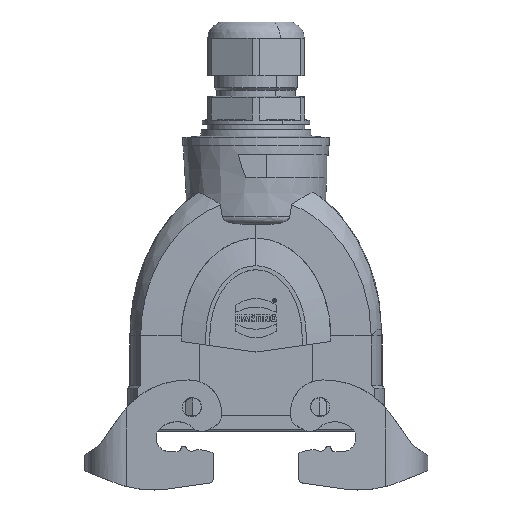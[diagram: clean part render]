
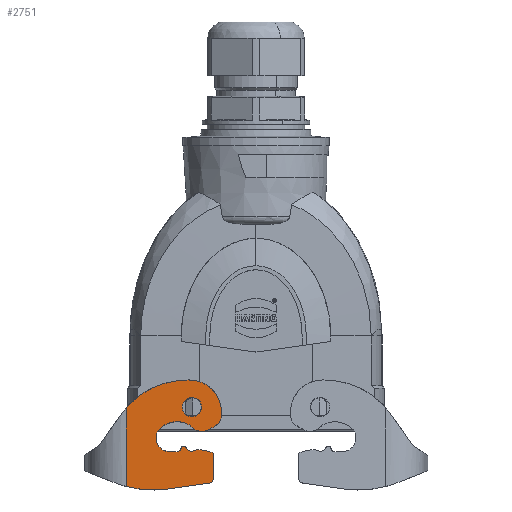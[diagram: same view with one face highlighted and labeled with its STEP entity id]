
A CAD part, front view. The second image highlights one B-rep face of the part: STEP entity #2751.
In plain terms, the highlighted planar face has unit normal (-0.035, -0.999, 0).
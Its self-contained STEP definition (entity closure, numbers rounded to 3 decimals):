
#1776=FACE_BOUND('',#4413,.T.);
#1777=FACE_BOUND('',#4414,.T.);
#2241=PLANE('',#16388);
#2751=ADVANCED_FACE('',(#1776,#1777),#2241,.T.);
#4413=EDGE_LOOP('',(#5852));
#4414=EDGE_LOOP('',(#5853,#5854,#5855,#5856,#5857,#5858,#5859,#5860,#5861,
#5862,#5863,#5864,#5865,#5866,#5867,#5868,#5869,#5870,#5871,#5872));
#5207=ELLIPSE('',#16229,12.007,12.);
#5209=ELLIPSE('',#16232,20.012,20.);
#5211=ELLIPSE('',#16235,3.002,3.);
#5239=ELLIPSE('',#16274,30.018,30.);
#5269=ELLIPSE('',#16323,40.024,40.);
#5286=ELLIPSE('',#16378,3.602,3.6);
#5287=ELLIPSE('',#16379,2.001,2.);
#5288=ELLIPSE('',#16380,15.009,15.);
#5289=ELLIPSE('',#16381,2.502,2.5);
#5290=ELLIPSE('',#16382,1.001,1.);
#5291=ELLIPSE('',#16383,1.501,1.5);
#5292=ELLIPSE('',#16384,5.003,5.);
#5293=ELLIPSE('',#16385,9.005,9.);
#5294=ELLIPSE('',#16386,5.003,5.);
#5295=ELLIPSE('',#16387,5.003,5.);
#5852=ORIENTED_EDGE('',*,*,#11212,.F.);
#5853=ORIENTED_EDGE('',*,*,#11205,.T.);
#5854=ORIENTED_EDGE('',*,*,#11135,.T.);
#5855=ORIENTED_EDGE('',*,*,#11213,.T.);
#5856=ORIENTED_EDGE('',*,*,#11214,.T.);
#5857=ORIENTED_EDGE('',*,*,#11215,.T.);
#5858=ORIENTED_EDGE('',*,*,#11216,.F.);
#5859=ORIENTED_EDGE('',*,*,#11217,.F.);
#5860=ORIENTED_EDGE('',*,*,#11218,.F.);
#5861=ORIENTED_EDGE('',*,*,#11219,.F.);
#5862=ORIENTED_EDGE('',*,*,#11220,.F.);
#5863=ORIENTED_EDGE('',*,*,#11221,.F.);
#5864=ORIENTED_EDGE('',*,*,#11222,.F.);
#5865=ORIENTED_EDGE('',*,*,#11223,.F.);
#5866=ORIENTED_EDGE('',*,*,#11224,.F.);
#5867=ORIENTED_EDGE('',*,*,#11225,.F.);
#5868=ORIENTED_EDGE('',*,*,#10986,.F.);
#5869=ORIENTED_EDGE('',*,*,#10989,.F.);
#5870=ORIENTED_EDGE('',*,*,#10983,.F.);
#5871=ORIENTED_EDGE('',*,*,#11226,.F.);
#5872=ORIENTED_EDGE('',*,*,#11061,.F.);
#9604=VERTEX_POINT('',#21172);
#9610=VERTEX_POINT('',#21184);
#9613=VERTEX_POINT('',#21191);
#9614=VERTEX_POINT('',#21193);
#9674=VERTEX_POINT('',#21336);
#9677=VERTEX_POINT('',#21345);
#9732=VERTEX_POINT('',#21506);
#9735=VERTEX_POINT('',#21513);
#9774=VERTEX_POINT('',#21668);
#9775=VERTEX_POINT('',#21670);
#9776=VERTEX_POINT('',#21672);
#9777=VERTEX_POINT('',#21674);
#9778=VERTEX_POINT('',#21676);
#9779=VERTEX_POINT('',#21678);
#9780=VERTEX_POINT('',#21680);
#9781=VERTEX_POINT('',#21682);
#9782=VERTEX_POINT('',#21684);
#9783=VERTEX_POINT('',#21686);
#9784=VERTEX_POINT('',#21688);
#9785=VERTEX_POINT('',#21690);
#9786=VERTEX_POINT('',#21692);
#10983=EDGE_CURVE('',#9610,#9604,#5207,.T.);
#10986=EDGE_CURVE('',#9613,#9614,#5209,.T.);
#10989=EDGE_CURVE('',#9604,#9613,#5211,.T.);
#11061=EDGE_CURVE('',#9677,#9674,#5239,.T.);
#11135=EDGE_CURVE('',#9732,#9735,#5269,.T.);
#11205=EDGE_CURVE('',#9677,#9732,#13184,.T.);
#11212=EDGE_CURVE('',#9774,#9774,#5286,.T.);
#11213=EDGE_CURVE('',#9735,#9775,#13187,.T.);
#11214=EDGE_CURVE('',#9775,#9776,#5287,.T.);
#11215=EDGE_CURVE('',#9776,#9777,#13188,.T.);
#11216=EDGE_CURVE('',#9778,#9777,#5288,.T.);
#11217=EDGE_CURVE('',#9779,#9778,#13189,.T.);
#11218=EDGE_CURVE('',#9780,#9779,#5289,.T.);
#11219=EDGE_CURVE('',#9781,#9780,#5290,.T.);
#11220=EDGE_CURVE('',#9782,#9781,#5291,.T.);
#11221=EDGE_CURVE('',#9783,#9782,#13190,.T.);
#11222=EDGE_CURVE('',#9784,#9783,#5292,.T.);
#11223=EDGE_CURVE('',#9785,#9784,#5293,.T.);
#11224=EDGE_CURVE('',#9786,#9785,#5294,.T.);
#11225=EDGE_CURVE('',#9614,#9786,#5295,.T.);
#11226=EDGE_CURVE('',#9674,#9610,#13191,.T.);
#13184=LINE('',#21655,#14477);
#13187=LINE('',#21669,#14480);
#13188=LINE('',#21673,#14481);
#13189=LINE('',#21677,#14482);
#13190=LINE('',#21685,#14483);
#13191=LINE('',#21694,#14484);
#14477=VECTOR('',#17871,1.);
#14480=VECTOR('',#17890,1.);
#14481=VECTOR('',#17893,1.);
#14482=VECTOR('',#17896,1.);
#14483=VECTOR('',#17903,1.);
#14484=VECTOR('',#17912,1.);
#16229=AXIS2_PLACEMENT_3D('',#21185,#17453,#17454);
#16232=AXIS2_PLACEMENT_3D('',#21192,#17460,#17461);
#16235=AXIS2_PLACEMENT_3D('',#21197,#17467,#17468);
#16274=AXIS2_PLACEMENT_3D('',#21346,#17588,#17589);
#16323=AXIS2_PLACEMENT_3D('',#21514,#17722,#17723);
#16378=AXIS2_PLACEMENT_3D('',#21667,#17888,#17889);
#16379=AXIS2_PLACEMENT_3D('',#21671,#17891,#17892);
#16380=AXIS2_PLACEMENT_3D('',#21675,#17894,#17895);
#16381=AXIS2_PLACEMENT_3D('',#21679,#17897,#17898);
#16382=AXIS2_PLACEMENT_3D('',#21681,#17899,#17900);
#16383=AXIS2_PLACEMENT_3D('',#21683,#17901,#17902);
#16384=AXIS2_PLACEMENT_3D('',#21687,#17904,#17905);
#16385=AXIS2_PLACEMENT_3D('',#21689,#17906,#17907);
#16386=AXIS2_PLACEMENT_3D('',#21691,#17908,#17909);
#16387=AXIS2_PLACEMENT_3D('',#21693,#17910,#17911);
#16388=AXIS2_PLACEMENT_3D('',#21695,#17913,#17914);
#17453=DIRECTION('',(0.035,0.999,0.));
#17454=DIRECTION('',(-0.999,0.035,0.));
#17460=DIRECTION('',(0.035,0.999,0.));
#17461=DIRECTION('',(-0.999,0.035,0.));
#17467=DIRECTION('',(0.035,0.999,0.));
#17468=DIRECTION('',(-0.999,0.035,0.));
#17588=DIRECTION('',(0.035,0.999,0.));
#17589=DIRECTION('',(-0.999,0.035,0.));
#17722=DIRECTION('',(-0.035,-0.999,0.));
#17723=DIRECTION('',(0.999,-0.035,0.));
#17871=DIRECTION('',(0.,0.,-1.));
#17888=DIRECTION('',(-0.035,-0.999,0.));
#17889=DIRECTION('',(-0.999,0.035,0.));
#17890=DIRECTION('',(0.99,-0.035,0.139));
#17891=DIRECTION('',(-0.035,-0.999,0.));
#17892=DIRECTION('',(-0.999,0.035,0.));
#17893=DIRECTION('',(0.,0.,1.));
#17894=DIRECTION('',(0.035,0.999,0.));
#17895=DIRECTION('',(-0.999,0.035,0.));
#17896=DIRECTION('',(0.996,-0.035,-0.087));
#17897=DIRECTION('',(-0.035,-0.999,0.));
#17898=DIRECTION('',(-0.999,0.035,0.));
#17899=DIRECTION('',(0.035,0.999,0.));
#17900=DIRECTION('',(-0.999,0.035,0.));
#17901=DIRECTION('',(-0.035,-0.999,0.));
#17902=DIRECTION('',(-0.999,0.035,0.));
#17903=DIRECTION('',(0.999,-0.035,0.));
#17904=DIRECTION('',(-0.035,-0.999,0.));
#17905=DIRECTION('',(-0.999,0.035,0.));
#17906=DIRECTION('',(-0.035,-0.999,0.));
#17907=DIRECTION('',(-0.999,0.035,0.));
#17908=DIRECTION('',(-0.035,-0.999,0.));
#17909=DIRECTION('',(-0.999,0.035,0.));
#17910=DIRECTION('',(0.035,0.999,0.));
#17911=DIRECTION('',(-0.999,0.035,0.));
#17912=DIRECTION('',(0.999,-0.035,0.035));
#17913=DIRECTION('',(-0.035,-0.999,0.));
#17914=DIRECTION('',(0.999,-0.035,0.));
#21172=CARTESIAN_POINT('',(-13.064,-28.273,-7.203));
#21184=CARTESIAN_POINT('',(-25.196,-27.849,7.396));
#21185=CARTESIAN_POINT('',(-24.777,-27.864,-4.597));
#21191=CARTESIAN_POINT('',(-14.19,-28.234,-8.95));
#21192=CARTESIAN_POINT('',(-26.206,-27.814,7.038));
#21193=CARTESIAN_POINT('',(-18.025,-28.1,-11.213));
#21197=CARTESIAN_POINT('',(-15.992,-28.171,-6.552));
#21336=CARTESIAN_POINT('',(-26.508,-27.804,7.35));
#21345=CARTESIAN_POINT('',(-48.076,-27.051,-2.919));
#21346=CARTESIAN_POINT('',(-25.461,-27.84,-22.632));
#21506=CARTESIAN_POINT('',(-48.076,-27.051,-32.115));
#21513=CARTESIAN_POINT('',(-32.485,-27.595,-33.002));
#21514=CARTESIAN_POINT('',(-38.052,-27.401,6.609));
#21655=CARTESIAN_POINT('',(-48.076,-27.051,-47.65));
#21667=CARTESIAN_POINT('',(-23.75,-27.9,-2.65));
#21668=CARTESIAN_POINT('',(-27.35,-27.774,-2.65));
#21669=CARTESIAN_POINT('',(-11.226,-28.337,-30.014));
#21670=CARTESIAN_POINT('',(-17.472,-28.119,-30.892));
#21671=CARTESIAN_POINT('',(-17.75,-28.11,-28.911));
#21672=CARTESIAN_POINT('',(-15.75,-28.179,-28.911));
#21673=CARTESIAN_POINT('',(-15.75,-28.179,-47.65));
#21674=CARTESIAN_POINT('',(-15.75,-28.179,-19.675));
#21675=CARTESIAN_POINT('',(-21.604,-27.975,-33.486));
#21676=CARTESIAN_POINT('',(-20.296,-28.021,-18.543));
#21677=CARTESIAN_POINT('',(-20.262,-28.022,-18.546));
#21678=CARTESIAN_POINT('',(-22.107,-27.957,-18.384));
#21679=CARTESIAN_POINT('',(-23.75,-27.9,-16.5));
#21680=CARTESIAN_POINT('',(-25.945,-27.823,-17.696));
#21681=CARTESIAN_POINT('',(-26.823,-27.793,-18.175));
#21682=CARTESIAN_POINT('',(-27.803,-27.758,-17.975));
#21683=CARTESIAN_POINT('',(-29.273,-27.707,-17.675));
#21684=CARTESIAN_POINT('',(-29.273,-27.707,-19.175));
#21685=CARTESIAN_POINT('',(-29.228,-27.709,-19.175));
#21686=CARTESIAN_POINT('',(-32.05,-27.61,-19.175));
#21687=CARTESIAN_POINT('',(-32.05,-27.61,-14.175));
#21688=CARTESIAN_POINT('',(-35.518,-27.489,-10.573));
#21689=CARTESIAN_POINT('',(-29.275,-27.707,-17.056));
#21690=CARTESIAN_POINT('',(-24.739,-27.865,-9.283));
#21691=CARTESIAN_POINT('',(-27.259,-27.777,-13.602));
#21692=CARTESIAN_POINT('',(-23.665,-27.903,-10.126));
#21693=CARTESIAN_POINT('',(-20.071,-28.028,-6.65));
#21694=CARTESIAN_POINT('',(-25.156,-27.851,7.397));
#21695=CARTESIAN_POINT('',(-8.75,-28.424,-47.65));
